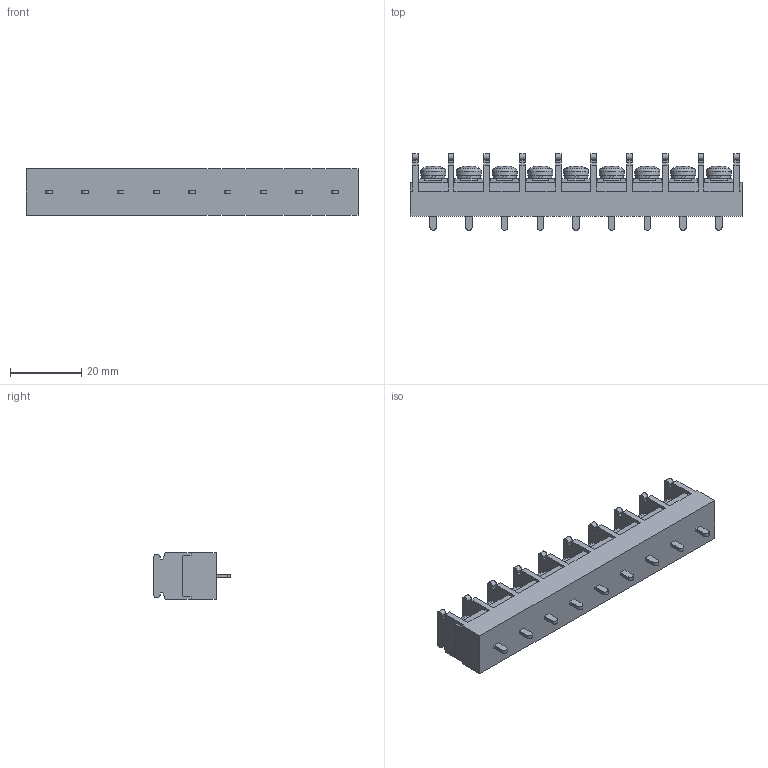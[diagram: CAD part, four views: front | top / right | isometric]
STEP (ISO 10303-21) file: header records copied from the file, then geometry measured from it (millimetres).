
FILE_DESCRIPTION(/* description */ ('Alibre Inc.'),/* implementation_level */ '2;1');
FILE_NAME(/* name */ 'export0',/* time_stamp */ '2015-10-17T18:09:17+09:00',/* author */ (''),/* organization */ (''),/* preprocessor_version */ 'ST-DEVELOPER v14',/* originating_system */ 'Alibre',/* authorisation */ '');
FILE_SCHEMA (('CONFIG_CONTROL_DESIGN'));
Length unit declared in the file: centimetre
Products named in the file (1): ID_1
Bounding box: 93 x 21.5 x 13 mm (x, y, z)
Volume: 14287.9 mm3; surface area: 8261 mm2
Topology: 1 solids, 17 shells, 971 faces, 2643 edges, 1753 vertices
Faces by surface type: plane 730, bspline 104, cylinder 74, cone 36, torus 18, sphere 9
Full cylindrical faces by diameter (mm): 4 x9, 6.5 x9, 7 x9
Entity records: 29647 total; most frequent: CARTESIAN_POINT 6508, ORIENTED_EDGE 5160, DIRECTION 3722, EDGE_CURVE 2580, VECTOR 1898, LINE 1898, VERTEX_POINT 1726, AXIS2_PLACEMENT_3D 1276
